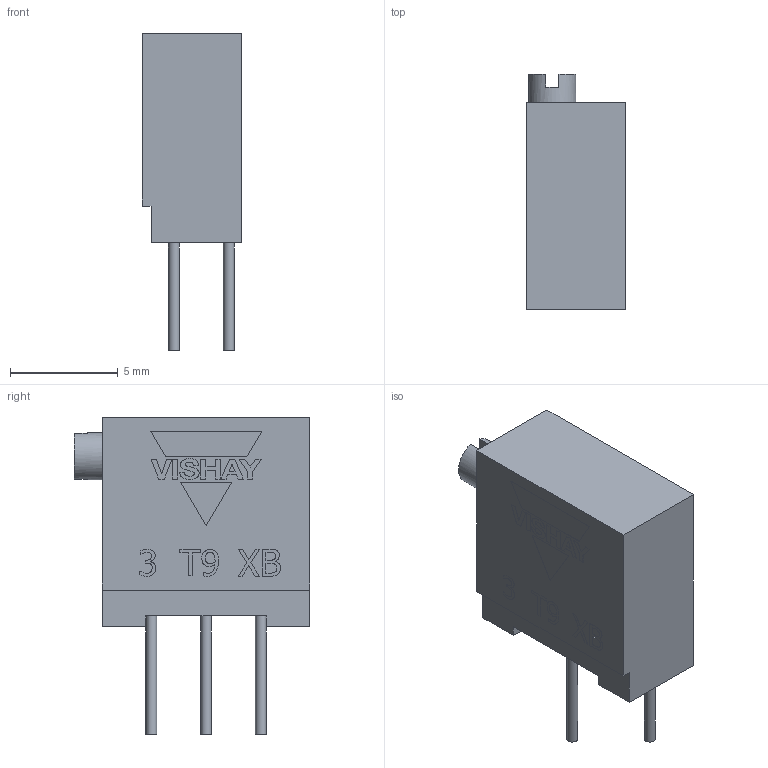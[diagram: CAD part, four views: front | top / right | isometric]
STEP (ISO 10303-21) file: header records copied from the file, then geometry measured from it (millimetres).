
FILE_DESCRIPTION(/* description */ ('Unknown'),/* implementation_level */ '2;1');
FILE_NAME(/* name */ 'T9XB',/* time_stamp */ '2018-01-18T10:52:51+01:00',/* author */ ('Unknown'),/* organization */ ('Unknown'),/* preprocessor_version */ 'ST-DEVELOPER v16.7',/* originating_system */ 'DEX',/* authorisation */ $);
FILE_SCHEMA (('AUTOMOTIVE_DESIGN {1 0 10303 214 3 1 1}'));
Length unit declared in the file: millimetre
Products named in the file (1): Gabarit - T93
Bounding box: 4.6 x 10.9 x 14.7 mm (x, y, z)
Volume: 417.4 mm3; surface area: 398.5 mm2
Topology: 1 solids, 1 shells, 148 faces, 375 edges, 250 vertices
Faces by surface type: plane 123, bspline 21, cylinder 4
Full cylindrical faces by diameter (mm): 0.5 x3, 2.2 x1
Entity records: 6135 total; most frequent: CARTESIAN_POINT 1991, ORIENTED_EDGE 740, DIRECTION 423, EDGE_CURVE 370, VERTEX_POINT 249, B_SPLINE_CURVE_WITH_KNOTS 214, EDGE_LOOP 173, FACE_BOUND 173
